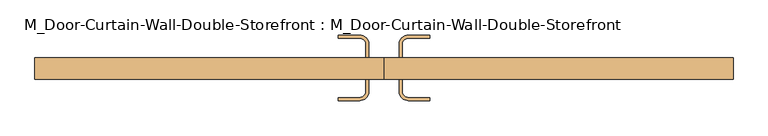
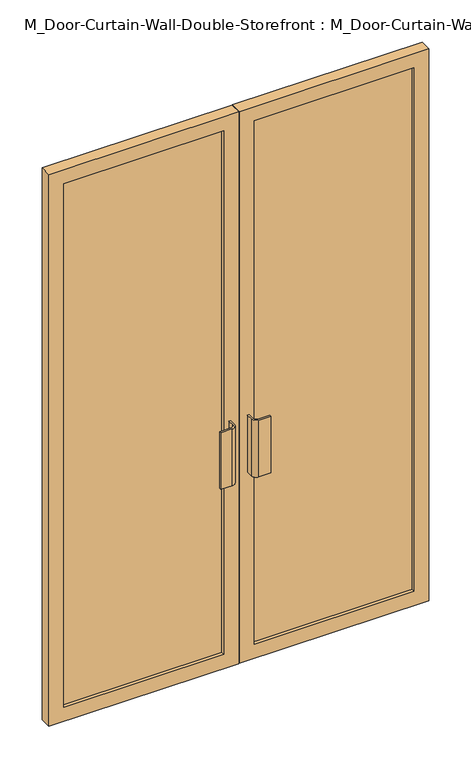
"""IFC4 building model written with IfcOpenShell, lengths in millimetres: door geometry, M_Door-Curtain-Wall-Double-Storefront : M_Door-Curtain-Wall-Double-Storefront."""

from ifc_helpers import new_model, si_unit, point, frame, frame_2d, origin, place, context, project, spatial, polyline, circle_curve, trimmed, segment, composite_curve, outline, extrude, source, transform, mapped, element, save


def m_door_curtain_wall_double_storefront_m_door_curtain_wall_3f7023ba(model_context):
    return source(origin(), model_context, "Body", "SweptSolid", [
        extrude(outline(polyline([(2225.0, 0.8168501), (0.0, 0.8168501), (0.0, 725.0), (2225.0, 725.0), (2225.0, 0.8168501)]), holes=[polyline([(2167.85, 57.9668501), (2167.85, 667.85), (57.15, 667.85), (57.15, 57.9668501), (2167.85, 57.9668501)])]), frame((0.0, -60.0, 0.0), z_axis=(0.0, 1.0, 0.0), x_axis=(0.0, 0.0, 1.0)), (0.0, 0.0, 1.0), 44.45),
        extrude(outline(polyline([(2225.0, -0.7706499), (2225.0, -725.0), (0.0, -725.0), (0.0, -0.7706499), (2225.0, -0.7706499)]), holes=[polyline([(2167.85, -667.85), (2167.85, -57.9206499), (57.15, -57.9206499), (57.15, -667.85), (2167.85, -667.85)])]), frame((0.0, -60.0, 0.0), z_axis=(0.0, 1.0, 0.0), x_axis=(0.0, 0.0, 1.0)), (0.0, 0.0, 1.0), 44.45),
        extrude(outline(polyline([(667.85, -28.25), (667.85, -47.3), (57.9668501, -47.3), (57.9668501, -28.25), (667.85, -28.25)])), frame((0.0, 0.0, 57.15), z_axis=(0.0, 0.0, 1.0), x_axis=(1.0, 0.0, 0.0)), (0.0, 0.0, 1.0), 2110.7),
        extrude(outline(polyline([(-57.9206499, -28.25), (-57.9206499, -47.3), (-667.85, -47.3), (-667.85, -28.25), (-57.9206499, -28.25)])), frame((0.0, 0.0, 57.15), z_axis=(0.0, 0.0, 1.0), x_axis=(1.0, 0.0, 0.0)), (0.0, 0.0, 1.0), 2110.7),
        extrude(outline(composite_curve([segment(polyline([(-31.7268999, 12.7), (-31.7268999, -15.55), (-38.0768999, -15.55), (-38.0768999, 12.7)]), True, "CONTINUOUS"), segment(trimmed(circle_curve(frame_2d((-50.7768999, 12.7)), 12.7), [point((-38.0768999, 12.7))], [point((-50.7768999, 25.4))], True, "CARTESIAN"), True, "CONTINUOUS"), segment(polyline([(-50.7768999, 25.4), (-95.2268999, 25.4), (-95.2268999, 31.75), (-50.7768999, 31.75)]), True, "CONTINUOUS"), segment(trimmed(circle_curve(frame_2d((-50.7768999, 12.7)), 19.05), [point((-50.7768999, 31.75))], [point((-31.7268999, 12.7))], False, "CARTESIAN"), True, "CONTINUOUS")], self_intersect=False)), frame((0.0, 0.0, 762.0), z_axis=(0.0, 0.0, 1.0), x_axis=(1.0, 0.0, 0.0)), (0.0, 0.0, 1.0), 228.6),
        extrude(outline(composite_curve([segment(trimmed(circle_curve(frame_2d((50.8231001, 12.7)), 19.05), [point((31.7731001, 12.7))], [point((50.8231001, 31.75))], False, "CARTESIAN"), True, "CONTINUOUS"), segment(polyline([(50.8231001, 31.75), (95.2731001, 31.75), (95.2731001, 25.4), (50.8231001, 25.4)]), True, "CONTINUOUS"), segment(trimmed(circle_curve(frame_2d((50.8231001, 12.7)), 12.7), [point((50.8231001, 25.4))], [point((38.1231001, 12.7))], True, "CARTESIAN"), True, "CONTINUOUS"), segment(polyline([(38.1231001, 12.7), (38.1231001, -15.55), (31.7731001, -15.55), (31.7731001, 12.7)]), True, "CONTINUOUS")], self_intersect=False)), frame((0.0, 0.0, 762.0), z_axis=(0.0, 0.0, 1.0), x_axis=(1.0, 0.0, 0.0)), (0.0, 0.0, 1.0), 228.6),
        extrude(outline(composite_curve([segment(trimmed(circle_curve(frame_2d((-50.7768999, -85.4)), 19.05), [point((-31.7268999, -85.4))], [point((-50.7768999, -104.45))], False, "CARTESIAN"), True, "CONTINUOUS"), segment(polyline([(-50.7768999, -104.45), (-95.2268999, -104.45), (-95.2268999, -98.1), (-50.7768999, -98.1)]), True, "CONTINUOUS"), segment(trimmed(circle_curve(frame_2d((-50.7768999, -85.4)), 12.7), [point((-50.7768999, -98.1))], [point((-38.0768999, -85.4))], True, "CARTESIAN"), True, "CONTINUOUS"), segment(polyline([(-38.0768999, -85.4), (-38.0768999, -60.0), (-31.7268999, -60.0), (-31.7268999, -85.4)]), True, "CONTINUOUS")], self_intersect=False)), frame((0.0, 0.0, 762.0), z_axis=(0.0, 0.0, 1.0), x_axis=(1.0, 0.0, 0.0)), (0.0, 0.0, 1.0), 228.6),
        extrude(outline(composite_curve([segment(polyline([(31.7731001, -85.4), (31.7731001, -60.0), (38.1231001, -60.0), (38.1231001, -85.4)]), True, "CONTINUOUS"), segment(trimmed(circle_curve(frame_2d((50.8231001, -85.4)), 12.7), [point((38.1231001, -85.4))], [point((50.8231001, -98.1))], True, "CARTESIAN"), True, "CONTINUOUS"), segment(polyline([(50.8231001, -98.1), (95.2731001, -98.1), (95.2731001, -104.45), (50.8231001, -104.45)]), True, "CONTINUOUS"), segment(trimmed(circle_curve(frame_2d((50.8231001, -85.4)), 19.05), [point((50.8231001, -104.45))], [point((31.7731001, -85.4))], False, "CARTESIAN"), True, "CONTINUOUS")], self_intersect=False)), frame((0.0, 0.0, 762.0), z_axis=(0.0, 0.0, 1.0), x_axis=(1.0, 0.0, 0.0)), (0.0, 0.0, 1.0), 228.6),
    ])


if __name__ == "__main__":
    model = new_model("IFC4")
    model_context = context("Model", 3, world=origin())
    ifc_project = project(units=[si_unit("LENGTHUNIT", "METRE", prefix="MILLI")], contexts=[model_context])
    site = spatial("IfcSite", under=ifc_project)
    building = spatial("IfcBuilding", under=site)
    placement = place(None, origin())
    m_door_curtain_wall_double_storefront_m_door_curtain_wall_shape = m_door_curtain_wall_double_storefront_m_door_curtain_wall_3f7023ba(model_context)
    element("IfcDoor", 1, ObjectType="M_Door-Curtain-Wall-Double-Storefront : M_Door-Curtain-Wall-Double-Storefront", at=placement, inside=building, context=model_context, shape_type="MappedRepresentation", body=[
        mapped(m_door_curtain_wall_double_storefront_m_door_curtain_wall_shape, transform((0.0, 0.0, 0.0), x_axis=(1.0, 0.0, 0.0), y_axis=(0.0, 1.0, 0.0), z_axis=(0.0, 0.0, 1.0))),
    ])
    save(model, "model.ifc")
